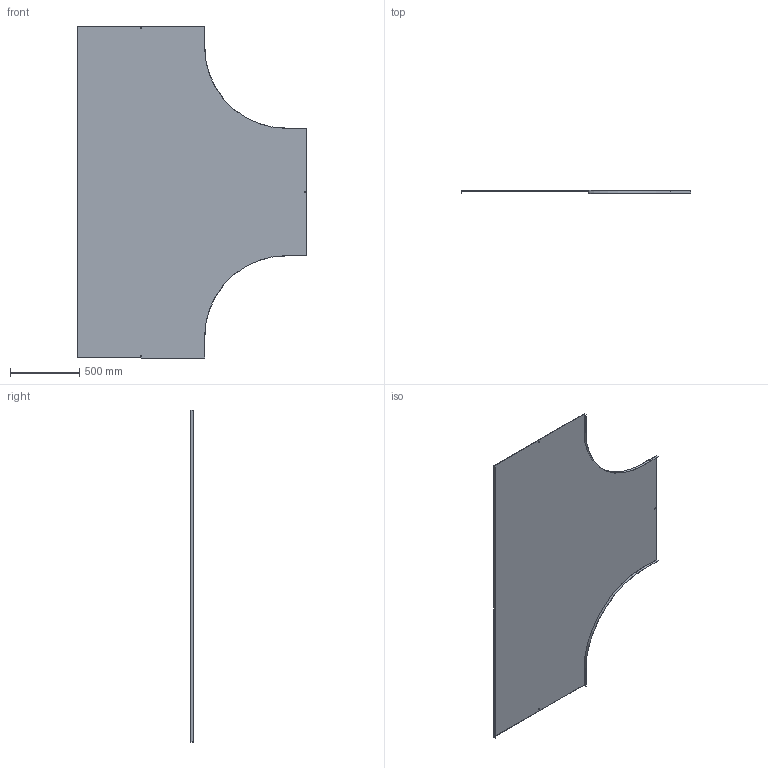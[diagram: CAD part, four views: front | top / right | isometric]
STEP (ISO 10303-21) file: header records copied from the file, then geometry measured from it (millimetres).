
FILE_DESCRIPTION (( 'STEP AP214' ), '1' );
FILE_NAME ('15N6P900.step', '2025-02-21T13:56:48', ( '' ), ( '' ), 'SwSTEP 2.0', 'SolidWorks 2023', '' );
FILE_SCHEMA (( 'AUTOMOTIVE_DESIGN' ));
Length unit declared in the file: millimetre
Products named in the file (1): 15N6P900
Bounding box: 1661.5 x 20 x 2400 mm (x, y, z)
Volume: 4702581 mm3; surface area: 6281840.7 mm2
Topology: 1 solids, 1 shells, 34 faces, 96 edges, 64 vertices
Faces by surface type: plane 30, cylinder 4
Entity records: 1123 total; most frequent: CARTESIAN_POINT 195, ORIENTED_EDGE 192, DIRECTION 174, EDGE_CURVE 96, LINE 88, VECTOR 88, VERTEX_POINT 64, AXIS2_PLACEMENT_3D 43
